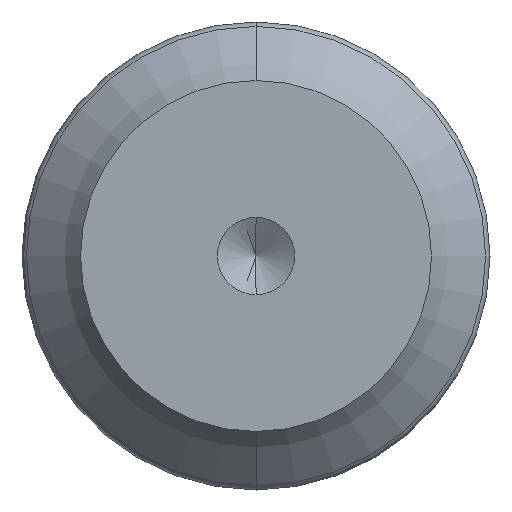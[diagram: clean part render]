
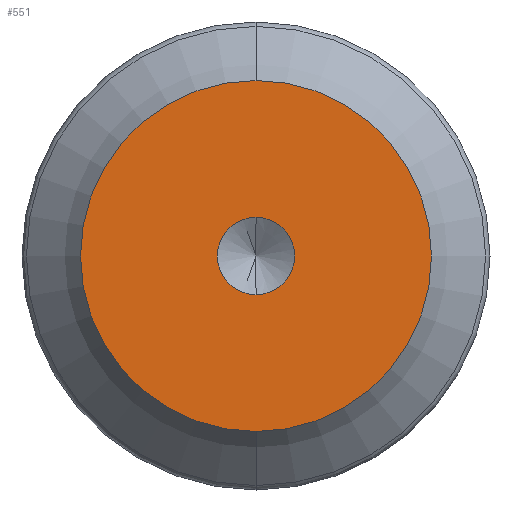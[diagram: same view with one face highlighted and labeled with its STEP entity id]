
A CAD part, front view. The second image highlights one B-rep face of the part: STEP entity #551.
In plain terms, the highlighted planar face has unit normal (0, -1, 0).
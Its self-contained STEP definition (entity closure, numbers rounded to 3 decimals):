
#20 = VERTEX_POINT ( 'NONE', #406 ) ;
#34 = DIRECTION ( 'NONE',  ( 0., 0., -1. ) ) ;
#44 = DIRECTION ( 'NONE',  ( 0., -1., 0. ) ) ;
#46 = AXIS2_PLACEMENT_3D ( 'NONE', #467, #381, #557 ) ;
#76 = CARTESIAN_POINT ( 'NONE',  ( 0., 0., -1.65 ) ) ;
#93 = CIRCLE ( 'NONE', #46, 7.5 ) ;
#122 = DIRECTION ( 'NONE',  ( 0., 0., -1. ) ) ;
#149 = CARTESIAN_POINT ( 'NONE',  ( 0., 0., 7.5 ) ) ;
#156 = CARTESIAN_POINT ( 'NONE',  ( 0., 0., 0. ) ) ;
#160 = EDGE_CURVE ( 'NONE', #178, #307, #470, .T. ) ;
#161 = PLANE ( 'NONE',  #175 ) ;
#164 = CARTESIAN_POINT ( 'NONE',  ( 0., 0., 0. ) ) ;
#174 = CIRCLE ( 'NONE', #506, 7.5 ) ;
#175 = AXIS2_PLACEMENT_3D ( 'NONE', #164, #44, #122 ) ;
#178 = VERTEX_POINT ( 'NONE', #468 ) ;
#184 = EDGE_CURVE ( 'NONE', #20, #437, #174, .T. ) ;
#185 = EDGE_CURVE ( 'NONE', #437, #20, #93, .T. ) ;
#205 = CIRCLE ( 'NONE', #227, 1.65 ) ;
#207 = CARTESIAN_POINT ( 'NONE',  ( 0., 0., 0. ) ) ;
#210 = DIRECTION ( 'NONE',  ( 0., 0., -1. ) ) ;
#224 = ORIENTED_EDGE ( 'NONE', *, *, #160, .F. ) ;
#227 = AXIS2_PLACEMENT_3D ( 'NONE', #156, #371, #503 ) ;
#249 = CARTESIAN_POINT ( 'NONE',  ( 0., 0., 0. ) ) ;
#289 = FACE_BOUND ( 'NONE', #446, .T. ) ;
#307 = VERTEX_POINT ( 'NONE', #76 ) ;
#318 = ORIENTED_EDGE ( 'NONE', *, *, #359, .F. ) ;
#359 = EDGE_CURVE ( 'NONE', #307, #178, #205, .T. ) ;
#361 = ORIENTED_EDGE ( 'NONE', *, *, #185, .T. ) ;
#371 = DIRECTION ( 'NONE',  ( 0., -1., 0. ) ) ;
#375 = EDGE_LOOP ( 'NONE', ( #451, #361 ) ) ;
#381 = DIRECTION ( 'NONE',  ( 0., -1., 0. ) ) ;
#386 = AXIS2_PLACEMENT_3D ( 'NONE', #207, #508, #34 ) ;
#406 = CARTESIAN_POINT ( 'NONE',  ( 0., 0., -7.5 ) ) ;
#437 = VERTEX_POINT ( 'NONE', #149 ) ;
#446 = EDGE_LOOP ( 'NONE', ( #318, #224 ) ) ;
#451 = ORIENTED_EDGE ( 'NONE', *, *, #184, .T. ) ;
#467 = CARTESIAN_POINT ( 'NONE',  ( 0., 0., 0. ) ) ;
#468 = CARTESIAN_POINT ( 'NONE',  ( 0., 0., 1.65 ) ) ;
#470 = CIRCLE ( 'NONE', #386, 1.65 ) ;
#473 = FACE_OUTER_BOUND ( 'NONE', #375, .T. ) ;
#503 = DIRECTION ( 'NONE',  ( 0., 0., -1. ) ) ;
#506 = AXIS2_PLACEMENT_3D ( 'NONE', #249, #514, #210 ) ;
#508 = DIRECTION ( 'NONE',  ( 0., -1., 0. ) ) ;
#514 = DIRECTION ( 'NONE',  ( 0., -1., 0. ) ) ;
#551 = ADVANCED_FACE ( 'NONE', ( #289, #473 ), #161, .T. ) ;
#557 = DIRECTION ( 'NONE',  ( 0., 0., -1. ) ) ;
